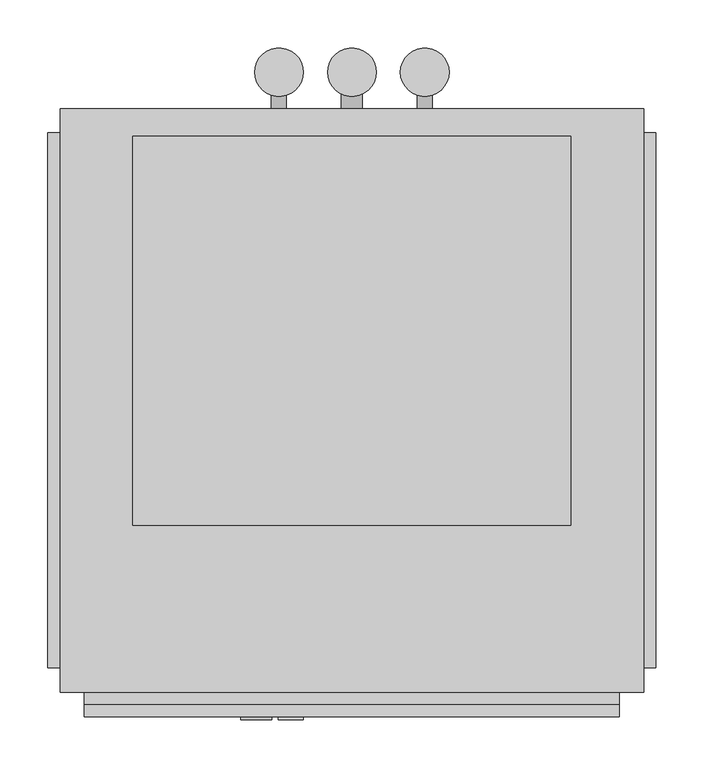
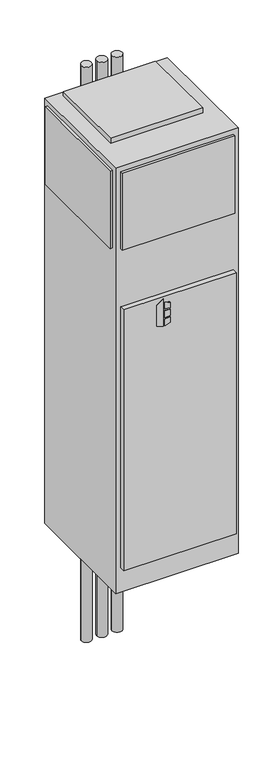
"""IFC4 building model written with IfcOpenShell, lengths in millimetres: proxy geometry, Concealed_Universal_Modular_Fan_Coil_Unit_-_MUY_-_IEC_-_2-Pipe_Cool-EHeat_-_WithRisers_2022 : Size 10 - 277v/60Hz/1Ph - 4 Row 8.0kW."""

from ifc_helpers import new_model, si_unit, point, frame, frame_2d, origin, origin_with_axes, place, context, project, spatial, polyline, circle_curve, trimmed, segment, composite_curve, outline, extrude, source, transform, mapped, element, save


def mechanical_equipment_9952a5bc(model_context):
    return source(origin(), model_context, "Body", "SweptSolid", [
        extrude(outline(polyline([(1356.1480703, 341.3868862), (1346.2, 373.5602728), (1488.3709244, 373.5602728), (1465.3489183, 341.3868862), (1356.1480703, 341.3868862)])), frame((0.0, -393.7, 0.0), z_axis=(0.0, 1.0, 0.0), x_axis=(0.0, 0.0, 1.0)), (0.0, 0.0, 1.0), 3.175),
        extrude(outline(polyline([(1435.1473557, 380.3186058), (1431.9449632, 406.4), (1461.1738042, 406.4), (1469.2382193, 380.3186058), (1435.1473557, 380.3186058)])), frame((0.0, -393.7, 0.0), z_axis=(0.0, 1.0, 0.0), x_axis=(0.0, 0.0, 1.0)), (0.0, 0.0, 1.0), 3.175),
        extrude(outline(polyline([(1383.2838288, 406.4), (1379.6183279, 380.3186058), (1346.2, 380.3186058), (1354.8342372, 406.4), (1383.2838288, 406.4)])), frame((0.0, -393.7, 0.0), z_axis=(0.0, 1.0, 0.0), x_axis=(0.0, 0.0, 1.0)), (0.0, 0.0, 1.0), 3.175),
        extrude(outline(polyline([(1422.5989903, 406.4), (1424.8808166, 380.3186058), (1388.9432681, 380.3186058), (1391.6845331, 406.4), (1422.5989903, 406.4)])), frame((0.0, -393.7, 0.0), z_axis=(0.0, 1.0, 0.0), x_axis=(0.0, 0.0, 1.0)), (0.0, 0.0, 1.0), 3.175),
        extrude(outline(composite_curve([segment(trimmed(circle_curve(frame_2d((381.0, 282.575)), 25.4), [point((355.6, 282.575))], [point((406.4, 282.575))], False, "CARTESIAN"), True, "CONTINUOUS"), segment(trimmed(circle_curve(frame_2d((381.0, 282.575)), 25.4), [point((406.4, 282.575))], [point((355.6, 282.575))], False, "CARTESIAN"), True, "CONTINUOUS")], self_intersect=False)), frame((0.0, 0.0, -711.2), z_axis=(0.0, 0.0, 1.0), x_axis=(1.0, 0.0, 0.0)), (0.0, 0.0, 1.0), 3022.6),
        extrude(outline(composite_curve([segment(trimmed(circle_curve(frame_2d((457.2, 282.575)), 25.4), [point((431.8, 282.575))], [point((482.6, 282.575))], False, "CARTESIAN"), True, "CONTINUOUS"), segment(trimmed(circle_curve(frame_2d((457.2, 282.575)), 25.4), [point((482.6, 282.575))], [point((431.8, 282.575))], False, "CARTESIAN"), True, "CONTINUOUS")], self_intersect=False)), frame((0.0, 0.0, -711.2), z_axis=(0.0, 0.0, 1.0), x_axis=(1.0, 0.0, 0.0)), (0.0, 0.0, 1.0), 3022.6),
        extrude(outline(composite_curve([segment(trimmed(circle_curve(frame_2d((533.4, 282.575)), 25.4), [point((508.0, 282.575))], [point((558.8, 282.575))], False, "CARTESIAN"), True, "CONTINUOUS"), segment(trimmed(circle_curve(frame_2d((533.4, 282.575)), 25.4), [point((558.8, 282.575))], [point((508.0, 282.575))], False, "CARTESIAN"), True, "CONTINUOUS")], self_intersect=False)), frame((0.0, 0.0, -711.2), z_axis=(0.0, 0.0, 1.0), x_axis=(1.0, 0.0, 0.0)), (0.0, 0.0, 1.0), 3022.6),
        extrude(outline(composite_curve([segment(trimmed(circle_curve(frame_2d((990.6, 533.4)), 7.9375), [point((990.6, 525.4625))], [point((990.6, 541.3375))], False, "CARTESIAN"), True, "CONTINUOUS"), segment(trimmed(circle_curve(frame_2d((990.6, 533.4)), 7.9375), [point((990.6, 541.3375))], [point((990.6, 525.4625))], False, "CARTESIAN"), True, "CONTINUOUS")], self_intersect=False)), frame((0.0, 244.475, 0.0), z_axis=(0.0, 1.0, 0.0), x_axis=(0.0, 0.0, 1.0)), (0.0, 0.0, 1.0), 50.8),
        extrude(outline(composite_curve([segment(trimmed(circle_curve(frame_2d((990.6, 381.0)), 7.9375), [point((990.6, 373.0625))], [point((990.6, 388.9375))], False, "CARTESIAN"), True, "CONTINUOUS"), segment(trimmed(circle_curve(frame_2d((990.6, 381.0)), 7.9375), [point((990.6, 388.9375))], [point((990.6, 373.0625))], False, "CARTESIAN"), True, "CONTINUOUS")], self_intersect=False)), frame((0.0, 244.475, 0.0), z_axis=(0.0, 1.0, 0.0), x_axis=(0.0, 0.0, 1.0)), (0.0, 0.0, 1.0), 50.8),
        extrude(outline(composite_curve([segment(trimmed(circle_curve(frame_2d((76.2, 457.2)), 11.1125), [point((76.2, 446.0875))], [point((76.2, 468.3125))], False, "CARTESIAN"), True, "CONTINUOUS"), segment(trimmed(circle_curve(frame_2d((76.2, 457.2)), 11.1125), [point((76.2, 468.3125))], [point((76.2, 446.0875))], False, "CARTESIAN"), True, "CONTINUOUS")], self_intersect=False)), frame((0.0, 244.475, 0.0), z_axis=(0.0, 1.0, 0.0), x_axis=(0.0, 0.0, 1.0)), (0.0, 0.0, 1.0), 50.8),
        extrude(outline(polyline([(685.8, 215.9), (685.8, -190.5), (228.6, -190.5), (228.6, 215.9), (685.8, 215.9)])), frame((0.0, 0.0, 2235.2), z_axis=(0.0, 0.0, 1.0), x_axis=(1.0, 0.0, 0.0)), (0.0, 0.0, 1.0), 25.4),
        extrude(outline(polyline([(139.7, -339.725), (139.7, 219.075), (152.4, 219.075), (152.4, -339.725), (139.7, -339.725)])), frame((0.0, 0.0, 1803.4), z_axis=(0.0, 0.0, 1.0), x_axis=(1.0, 0.0, 0.0)), (0.0, 0.0, 1.0), 406.4),
        extrude(outline(polyline([(774.7, 219.075), (774.7, -339.725), (762.0, -339.725), (762.0, 219.075), (774.7, 219.075)])), frame((0.0, 0.0, 1803.4), z_axis=(0.0, 0.0, 1.0), x_axis=(1.0, 0.0, 0.0)), (0.0, 0.0, 1.0), 406.4),
        extrude(outline(polyline([(736.6, -377.825), (177.8, -377.825), (177.8, -365.125), (736.6, -365.125), (736.6, -377.825)])), frame((0.0, 0.0, 1803.4), z_axis=(0.0, 0.0, 1.0), x_axis=(1.0, 0.0, 0.0)), (0.0, 0.0, 1.0), 406.4),
        extrude(outline(polyline([(736.6, -390.525), (177.8, -390.525), (177.8, -365.125), (736.6, -365.125), (736.6, -390.525)])), frame((0.0, 0.0, 127.0), z_axis=(0.0, 0.0, 1.0), x_axis=(1.0, 0.0, 0.0)), (0.0, 0.0, 1.0), 1371.6),
        extrude(outline(polyline([(762.0, 244.475), (762.0, -365.125), (152.4, -365.125), (152.4, 244.475), (762.0, 244.475)])), origin_with_axes(), (0.0, 0.0, 1.0), 2235.2),
    ])


if __name__ == "__main__":
    model = new_model("IFC4")
    model_context = context("Model", 3, world=origin())
    ifc_project = project(units=[si_unit("LENGTHUNIT", "METRE", prefix="MILLI")], contexts=[model_context])
    site = spatial("IfcSite", under=ifc_project)
    building = spatial("IfcBuilding", under=site)
    placement = place(None, origin())
    mechanical_equipment_shape = mechanical_equipment_9952a5bc(model_context)
    element("IfcBuildingElementProxy", 1, Name="Concealed_Universal_Modular_Fan_Coil_Unit_-_MUY_-_IEC_-_2-Pipe_Cool-EHeat_-_WithRisers_2022 : Size 10 - 277v/60Hz/1Ph - 4 Row 8.0kW", ObjectType="Concealed_Universal_Modular_Fan_Coil_Unit_-_MUY_-_IEC_-_2-Pipe_Cool-EHeat_-_WithRisers_2022 : Size 10 - 277v/60Hz/1Ph - 4 Row 8.0kW", at=placement, inside=building, context=model_context, shape_type="MappedRepresentation", body=[
        mapped(mechanical_equipment_shape, transform((0.0, 0.0, 0.0), x_axis=(1.0, 0.0, 0.0), y_axis=(0.0, 1.0, 0.0), z_axis=(0.0, 0.0, 1.0))),
    ])
    save(model, "model.ifc")
